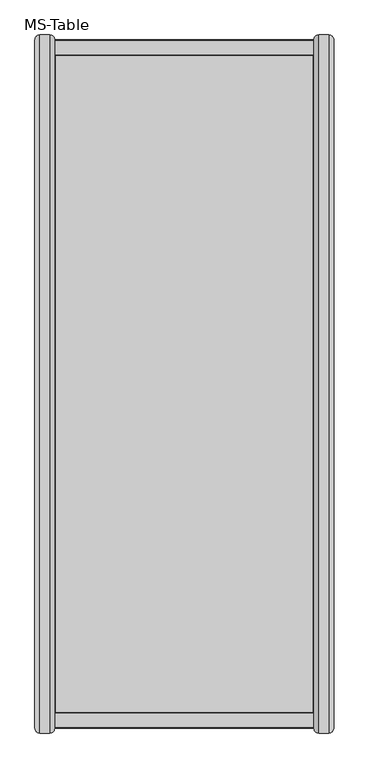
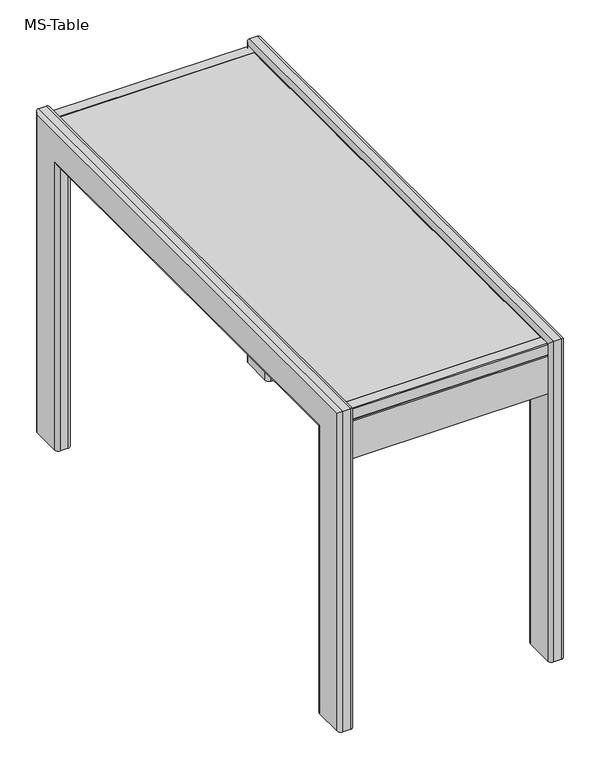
"""IFC4 building model written with IfcOpenShell, lengths in millimetres: furniture geometry, MS-Table : .Mesa controlador maior."""

from ifc_helpers import new_model, si_unit, frame, origin, place, context, project, spatial, polyline, circle_curve, ellipse_curve, outline, extrude, faceted_brep, source, transform, mapped, element, save
from ifc_brep_helpers import plane_surface, cylinder_surface, advanced_brep


def ms_table_ba98549e(model_context):
    return source(origin(), model_context, "Body", "SolidModel", [
        extrude(outline(polyline([(-260.0, -623.8884232), (-270.0, -623.8884232), (-270.0, 676.1115768), (-260.0, 676.1115768), (-260.0, -623.8884232)])), frame((0.0, 0.0, 860.0), z_axis=(0.0, 0.0, 1.0), x_axis=(1.0, 0.0, 0.0)), (0.0, 0.0, 1.0), 20.0),
        extrude(outline(polyline([(250.0, 676.1115768), (250.0, -623.8884232), (240.0, -623.8884232), (240.0, 676.1115768), (250.0, 676.1115768)])), frame((0.0, 0.0, 860.0), z_axis=(0.0, 0.0, 1.0), x_axis=(1.0, 0.0, 0.0)), (0.0, 0.0, 1.0), 20.0),
        faceted_brep([(248.0, -631.8884232, 890.0), (248.0, 684.1115768, 890.0), (-268.0, 684.1115768, 890.0), (-268.0, -631.8884232, 890.0), (250.0, 686.1115768, 880.0), (250.0, -633.8884232, 880.0), (-270.0, -633.8884232, 880.0), (-270.0, 686.1115768, 880.0), (-270.0, 686.1115768, 888.0), (250.0, 686.1115768, 888.0), (-270.0, -633.8884232, 888.0), (250.0, -633.8884232, 888.0)], [[[0, 1, 2, 3]], [[4, 5, 6, 7]], [[4, 7, 8, 9]], [[7, 6, 10, 8]], [[6, 5, 11, 10]], [[5, 4, 9, 11]], [[9, 1, 0, 11]], [[1, 9, 8, 2]], [[2, 8, 10, 3]], [[11, 0, 3, 10]]]),
        faceted_brep([(250.0, -663.8884232, 860.0), (250.0, -658.8884232, 860.0), (250.0, -658.8884232, 855.0), (250.0, -663.8884232, 855.0), (250.0, -663.8884232, 750.0), (250.0, -623.8884232, 750.0), (250.0, -623.8884232, 880.0), (250.0, -633.8884232, 880.0), (250.0, -633.8884232, 888.0), (250.0, -633.8884232, 890.0), (250.0, -661.8884232, 890.0), (250.0, -663.8884232, 888.0), (-270.0, -633.8884232, 880.0), (-270.0, -623.8884232, 880.0), (-270.0, -623.8884232, 750.0), (-270.0, -663.8884232, 750.0), (-270.0, -663.8884232, 855.0), (-270.0, -658.8884232, 855.0), (-270.0, -658.8884232, 860.0), (-270.0, -663.8884232, 860.0), (-270.0, -663.8884232, 888.0), (-270.0, -661.8884232, 890.0), (-270.0, -633.8884232, 890.0), (-270.0, -633.8884232, 888.0)], [[[0, 1, 2, 3, 4, 5, 6, 7, 8, 9, 10, 11]], [[12, 13, 14, 15, 16, 17, 18, 19, 20, 21, 22, 23]], [[19, 0, 11, 20]], [[1, 0, 19, 18]], [[2, 1, 18, 17]], [[3, 2, 17, 16]], [[4, 3, 16, 15]], [[5, 4, 15, 14]], [[6, 5, 14, 13]], [[7, 6, 13, 12]], [[7, 12, 23, 22, 9, 8]], [[9, 22, 21, 10]], [[11, 10, 21, 20]]]),
        faceted_brep([(250.0, 686.1115768, 880.0), (250.0, 676.1115768, 880.0), (250.0, 676.1115768, 750.0), (250.0, 716.1115768, 750.0), (250.0, 716.1115768, 855.0), (250.0, 711.1115768, 855.0), (250.0, 711.1115768, 860.0), (250.0, 716.1115768, 860.0), (250.0, 716.1115768, 888.0), (250.0, 714.1115768, 890.0), (250.0, 686.1115768, 890.0), (250.0, 686.1115768, 888.0), (-270.0, 716.1115768, 860.0), (-270.0, 711.1115768, 860.0), (-270.0, 711.1115768, 855.0), (-270.0, 716.1115768, 855.0), (-270.0, 716.1115768, 750.0), (-270.0, 676.1115768, 750.0), (-270.0, 676.1115768, 880.0), (-270.0, 686.1115768, 880.0), (-270.0, 686.1115768, 888.0), (-270.0, 686.1115768, 890.0), (-270.0, 714.1115768, 890.0), (-270.0, 716.1115768, 888.0)], [[[0, 1, 2, 3, 4, 5, 6, 7, 8, 9, 10, 11]], [[12, 13, 14, 15, 16, 17, 18, 19, 20, 21, 22, 23]], [[21, 10, 9, 22]], [[10, 21, 20, 19, 0, 11]], [[1, 0, 19, 18]], [[2, 1, 18, 17]], [[3, 2, 17, 16]], [[4, 3, 16, 15]], [[5, 4, 15, 14]], [[6, 5, 14, 13]], [[7, 6, 13, 12]], [[7, 12, 23, 8]], [[9, 8, 23, 22]]]),
        advanced_brep(
        [(260.0, 726.1115768, 0.0), (280.0, 726.1115768, 0.0), (290.0, 716.1115768, 0.0), (290.0, 636.1115768, 0.0), (280.0, 626.1115768, 0.0), (260.0, 626.1115768, 0.0), (250.0, 636.1115768, 0.0), (250.0, 716.1115768, 0.0), (260.0, 726.1115768, 900.0), (280.0, 726.1115768, 900.0), (290.0, 716.1115768, 890.0), (290.0, -663.8884232, 890.0), (290.0, -663.8884232, 0.0), (290.0, -583.8884232, 0.0), (290.0, -583.8884232, 810.0), (290.0, 636.1115768, 810.0), (280.0, 626.1115768, 800.0), (260.0, 626.1115768, 800.0), (250.0, 636.1115768, 810.0), (250.0, -583.8884232, 810.0), (250.0, -583.8884232, 0.0), (250.0, -663.8884232, 0.0), (250.0, -663.8884232, 888.0), (250.0, -663.8884232, 890.0), (250.0, -661.8884232, 890.0), (250.0, -633.8884232, 890.0), (250.0, 686.1115768, 890.0), (250.0, 714.1115768, 890.0), (250.0, 716.1115768, 890.0), (250.0, 716.1115768, 888.0), (260.0, -673.8884232, 900.0), (280.0, -673.8884232, 900.0), (280.0, -573.8884232, 800.0), (260.0, -573.8884232, 800.0), (280.0, -673.8884232, 0.0), (260.0, -673.8884232, 0.0), (260.0, -573.8884232, 0.0), (280.0, -573.8884232, 0.0)],
        [
            (0, 1),
            (1, 2, circle_curve(frame((280.0, 716.1115768, 0.0), z_axis=(0.0, 0.0, -1.0), x_axis=(0.0, 1.0, 0.0)), 10.0)),
            (2, 3),
            (3, 4, circle_curve(frame((280.0, 636.1115768, 0.0), z_axis=(0.0, 0.0, -1.0), x_axis=(0.0, 1.0, 0.0)), 10.0)),
            (4, 5),
            (5, 6, circle_curve(frame((260.0, 636.1115768, 0.0), z_axis=(0.0, 0.0, -1.0), x_axis=(0.0, 1.0, 0.0)), 10.0)),
            (6, 7),
            (7, 0, circle_curve(frame((260.0, 716.1115768, 0.0), z_axis=(0.0, 0.0, -1.0), x_axis=(0.0, 1.0, 0.0)), 10.0)),
            (0, 8),
            (8, 9),
            (9, 1),
            (9, 10, ellipse_curve(frame((280.0, 716.1115768, 890.0), z_axis=(0.0, 0.7071067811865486, -0.7071067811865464), x_axis=(0.0, -0.7071067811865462, -0.7071067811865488)), 14.1421356, 10.0)),
            (10, 2),
            (10, 11),
            (11, 12),
            (12, 13),
            (13, 14),
            (14, 15),
            (15, 3),
            (15, 16, ellipse_curve(frame((280.0, 636.1115768, 810.0), z_axis=(0.0, 0.7071067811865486, -0.7071067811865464), x_axis=(0.0, -0.7071067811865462, -0.7071067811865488)), 14.1421356, 10.0)),
            (16, 4),
            (16, 17),
            (17, 5),
            (17, 18, ellipse_curve(frame((260.0, 636.1115768, 810.0), z_axis=(0.0, 0.7071067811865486, -0.7071067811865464), x_axis=(0.0, -0.7071067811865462, -0.7071067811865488)), 14.1421356, 10.0)),
            (18, 6),
            (18, 19),
            (19, 20),
            (20, 21),
            (21, 22),
            (22, 23),
            (23, 24),
            (24, 25),
            (25, 26),
            (26, 27),
            (27, 28),
            (28, 29),
            (29, 7),
            (28, 8, ellipse_curve(frame((260.0, 716.1115768, 890.0), z_axis=(0.0, 0.7071067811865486, -0.7071067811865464), x_axis=(0.0, -0.7071067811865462, -0.7071067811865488)), 14.1421356, 10.0)),
            (8, 30),
            (30, 31),
            (31, 9),
            (31, 11, ellipse_curve(frame((280.0, -663.8884232, 890.0), z_axis=(0.0, 0.7071067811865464, 0.7071067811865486), x_axis=(0.0, 0.7071067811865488, -0.7071067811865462)), 14.1421356, 10.0)),
            (14, 32, ellipse_curve(frame((280.0, -583.8884232, 810.0), z_axis=(0.0, 0.7071067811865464, 0.7071067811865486), x_axis=(0.0, 0.7071067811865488, -0.7071067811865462)), 14.1421356, 10.0)),
            (32, 16),
            (32, 33),
            (33, 17),
            (33, 19, ellipse_curve(frame((260.0, -583.8884232, 810.0), z_axis=(0.0, 0.7071067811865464, 0.7071067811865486), x_axis=(0.0, 0.7071067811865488, -0.7071067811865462)), 14.1421356, 10.0)),
            (23, 30, ellipse_curve(frame((260.0, -663.8884232, 890.0), z_axis=(0.0, 0.7071067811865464, 0.7071067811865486), x_axis=(0.0, 0.7071067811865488, -0.7071067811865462)), 14.1421356, 10.0)),
            (12, 34, circle_curve(frame((280.0, -663.8884232, 0.0), z_axis=(0.0, 0.0, -1.0), x_axis=(0.0, -1.0, 0.0)), 10.0)),
            (34, 35),
            (35, 21, circle_curve(frame((260.0, -663.8884232, 0.0), z_axis=(0.0, 0.0, -1.0), x_axis=(0.0, -1.0, 0.0)), 10.0)),
            (20, 36, circle_curve(frame((260.0, -583.8884232, 0.0), z_axis=(0.0, 0.0, -1.0), x_axis=(0.0, -1.0, 0.0)), 10.0)),
            (36, 37),
            (37, 13, circle_curve(frame((280.0, -583.8884232, 0.0), z_axis=(0.0, 0.0, -1.0), x_axis=(0.0, -1.0, 0.0)), 10.0)),
            (30, 35),
            (34, 31),
            (37, 32),
            (36, 33),
        ],
        [
            plane_surface(frame((290.0, 726.1115768, 0.0), z_axis=(0.0, 0.0, -1.0), x_axis=(1.0, 0.0, 0.0))),
            plane_surface(frame((260.0, 726.1115768, 0.0), z_axis=(0.0, 1.0, 0.0), x_axis=(0.0, 0.0, 1.0))),
            cylinder_surface(frame((280.0, 716.1115768, 0.0), z_axis=(0.0, 0.0, -1.0), x_axis=(0.0, 1.0, 0.0)), 10.0),
            plane_surface(frame((290.0, 716.1115768, 0.0), z_axis=(1.0, 0.0, 0.0), x_axis=(0.0, 0.0, 1.0))),
            cylinder_surface(frame((280.0, 636.1115768, 0.0), z_axis=(0.0, 0.0, -1.0), x_axis=(0.0, 1.0, 0.0)), 10.0),
            plane_surface(frame((280.0, 626.1115768, 0.0), z_axis=(0.0, -1.0, 0.0), x_axis=(0.0, 0.0, 1.0))),
            cylinder_surface(frame((260.0, 636.1115768, 0.0), z_axis=(0.0, 0.0, -1.0), x_axis=(0.0, 1.0, 0.0)), 10.0),
            plane_surface(frame((250.0, 636.1115768, 0.0), z_axis=(-1.0, 0.0, 0.0), x_axis=(0.0, 0.0, 1.0))),
            cylinder_surface(frame((260.0, 716.1115768, 0.0), z_axis=(0.0, 0.0, -1.0), x_axis=(0.0, 1.0, 0.0)), 10.0),
            plane_surface(frame((260.0, 726.1115768, 900.0), z_axis=(0.0, 0.0, 1.0), x_axis=(0.0, -1.0, 0.0))),
            cylinder_surface(frame((280.0, 726.1115768, 890.0), z_axis=(0.0, 1.0, 0.0), x_axis=(0.0, 0.0, 1.0)), 10.0),
            cylinder_surface(frame((280.0, 726.1115768, 810.0), z_axis=(0.0, 1.0, 0.0), x_axis=(0.0, 0.0, 1.0)), 10.0),
            plane_surface(frame((280.0, 626.1115768, 800.0), z_axis=(0.0, 0.0, -1.0), x_axis=(0.0, -1.0, 0.0))),
            cylinder_surface(frame((260.0, 726.1115768, 810.0), z_axis=(0.0, 1.0, 0.0), x_axis=(0.0, 0.0, 1.0)), 10.0),
            cylinder_surface(frame((260.0, 726.1115768, 890.0), z_axis=(0.0, 1.0, 0.0), x_axis=(0.0, 0.0, 1.0)), 10.0),
            plane_surface(frame((290.0, -673.8884232, 0.0), z_axis=(0.0, 0.0, -1.0), x_axis=(1.0, 0.0, 0.0))),
            plane_surface(frame((260.0, -673.8884232, 900.0), z_axis=(0.0, -1.0, 0.0), x_axis=(0.0, 0.0, -1.0))),
            cylinder_surface(frame((280.0, -663.8884232, 900.0), z_axis=(0.0, 0.0, 1.0), x_axis=(0.0, -1.0, 0.0)), 10.0),
            cylinder_surface(frame((280.0, -583.8884232, 900.0), z_axis=(0.0, 0.0, 1.0), x_axis=(0.0, -1.0, 0.0)), 10.0),
            plane_surface(frame((280.0, -573.8884232, 800.0), z_axis=(0.0, 1.0, 0.0), x_axis=(0.0, 0.0, -1.0))),
            cylinder_surface(frame((260.0, -583.8884232, 900.0), z_axis=(0.0, 0.0, 1.0), x_axis=(0.0, -1.0, 0.0)), 10.0),
            cylinder_surface(frame((260.0, -663.8884232, 900.0), z_axis=(0.0, 0.0, 1.0), x_axis=(0.0, -1.0, 0.0)), 10.0),
        ],
        [
            (0, [[1, 2, 3, 4, 5, 6, 7, 8]]),
            (1, [[-1, 9, 10, 11]]),
            (2, [[-2, -11, 12, 13]]),
            (3, [[-3, -13, 14, 15, 16, 17, 18, 19]]),
            (4, [[-4, -19, 20, 21]]),
            (5, [[-5, -21, 22, 23]]),
            (6, [[-6, -23, 24, 25]]),
            (7, [[-7, -25, 26, 27, 28, 29, 30, 31, 32, 33, 34, 35, 36, 37]]),
            (8, [[-8, -37, -36, 38, -9]]),
            (9, [[-10, 39, 40, 41]]),
            (10, [[-12, -41, 42, -14]]),
            (11, [[-18, 43, 44, -20]]),
            (12, [[-22, -44, 45, 46]]),
            (13, [[-24, -46, 47, -26]]),
            (14, [[-38, -35, -34, -33, -32, -31, 48, -39]]),
            (15, [[-16, 49, 50, 51, -28, 52, 53, 54]]),
            (16, [[-40, 55, -50, 56]]),
            (17, [[-15, -42, -56, -49]]),
            (18, [[-17, -54, 57, -43]]),
            (19, [[-45, -57, -53, 58]]),
            (20, [[-27, -47, -58, -52]]),
            (21, [[-48, -30, -29, -51, -55]]),
        ],
    ),
        advanced_brep(
        [(-280.0, -673.8884232, 0.0), (-300.0, -673.8884232, 0.0), (-310.0, -663.8884232, 0.0), (-310.0, -583.8884232, 0.0), (-300.0, -573.8884232, 0.0), (-280.0, -573.8884232, 0.0), (-270.0, -583.8884232, 0.0), (-270.0, -663.8884232, 0.0), (-280.0, -673.8884232, 900.0), (-300.0, -673.8884232, 900.0), (-310.0, -663.8884232, 890.0), (-310.0, 716.1115768, 890.0), (-310.0, 716.1115768, 0.0), (-310.0, 636.1115768, 0.0), (-310.0, 636.1115768, 810.0), (-310.0, -583.8884232, 810.0), (-300.0, -573.8884232, 800.0), (-280.0, -573.8884232, 800.0), (-270.0, -583.8884232, 810.0), (-270.0, 636.1115768, 810.0), (-270.0, 636.1115768, 0.0), (-270.0, 716.1115768, 0.0), (-270.0, 716.1115768, 888.0), (-270.0, 716.1115768, 890.0), (-270.0, 714.1115768, 890.0), (-270.0, 686.1115768, 890.0), (-270.0, -633.8884232, 890.0), (-270.0, -661.8884232, 890.0), (-270.0, -663.8884232, 890.0), (-270.0, -663.8884232, 888.0), (-280.0, 726.1115768, 900.0), (-300.0, 726.1115768, 900.0), (-300.0, 626.1115768, 800.0), (-280.0, 626.1115768, 800.0), (-300.0, 726.1115768, 0.0), (-280.0, 726.1115768, 0.0), (-280.0, 626.1115768, 0.0), (-300.0, 626.1115768, 0.0)],
        [
            (0, 1),
            (1, 2, circle_curve(frame((-300.0, -663.8884232, 0.0), z_axis=(0.0, 0.0, -1.0), x_axis=(0.0, -1.0, 0.0)), 10.0)),
            (2, 3),
            (3, 4, circle_curve(frame((-300.0, -583.8884232, 0.0), z_axis=(0.0, 0.0, -1.0), x_axis=(0.0, -1.0, 0.0)), 10.0)),
            (4, 5),
            (5, 6, circle_curve(frame((-280.0, -583.8884232, 0.0), z_axis=(0.0, 0.0, -1.0), x_axis=(0.0, -1.0, 0.0)), 10.0)),
            (6, 7),
            (7, 0, circle_curve(frame((-280.0, -663.8884232, 0.0), z_axis=(0.0, 0.0, -1.0), x_axis=(0.0, -1.0, 0.0)), 10.0)),
            (0, 8),
            (8, 9),
            (9, 1),
            (9, 10, ellipse_curve(frame((-300.0, -663.8884232, 890.0), z_axis=(0.0, -0.7071067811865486, -0.7071067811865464), x_axis=(0.0, 0.7071067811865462, -0.7071067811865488)), 14.1421356, 10.0)),
            (10, 2),
            (10, 11),
            (11, 12),
            (12, 13),
            (13, 14),
            (14, 15),
            (15, 3),
            (15, 16, ellipse_curve(frame((-300.0, -583.8884232, 810.0), z_axis=(0.0, -0.7071067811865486, -0.7071067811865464), x_axis=(0.0, 0.7071067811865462, -0.7071067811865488)), 14.1421356, 10.0)),
            (16, 4),
            (16, 17),
            (17, 5),
            (17, 18, ellipse_curve(frame((-280.0, -583.8884232, 810.0), z_axis=(0.0, -0.7071067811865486, -0.7071067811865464), x_axis=(0.0, 0.7071067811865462, -0.7071067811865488)), 14.1421356, 10.0)),
            (18, 6),
            (18, 19),
            (19, 20),
            (20, 21),
            (21, 22),
            (22, 23),
            (23, 24),
            (24, 25),
            (25, 26),
            (26, 27),
            (27, 28),
            (28, 29),
            (29, 7),
            (28, 8, ellipse_curve(frame((-280.0, -663.8884232, 890.0), z_axis=(0.0, -0.7071067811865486, -0.7071067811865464), x_axis=(0.0, 0.7071067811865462, -0.7071067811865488)), 14.1421356, 10.0)),
            (8, 30),
            (30, 31),
            (31, 9),
            (31, 11, ellipse_curve(frame((-300.0, 716.1115768, 890.0), z_axis=(0.0, -0.7071067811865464, 0.7071067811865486), x_axis=(0.0, -0.7071067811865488, -0.7071067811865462)), 14.1421356, 10.0)),
            (14, 32, ellipse_curve(frame((-300.0, 636.1115768, 810.0), z_axis=(0.0, -0.7071067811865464, 0.7071067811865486), x_axis=(0.0, -0.7071067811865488, -0.7071067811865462)), 14.1421356, 10.0)),
            (32, 16),
            (32, 33),
            (33, 17),
            (33, 19, ellipse_curve(frame((-280.0, 636.1115768, 810.0), z_axis=(0.0, -0.7071067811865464, 0.7071067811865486), x_axis=(0.0, -0.7071067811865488, -0.7071067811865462)), 14.1421356, 10.0)),
            (23, 30, ellipse_curve(frame((-280.0, 716.1115768, 890.0), z_axis=(0.0, -0.7071067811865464, 0.7071067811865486), x_axis=(0.0, -0.7071067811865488, -0.7071067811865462)), 14.1421356, 10.0)),
            (12, 34, circle_curve(frame((-300.0, 716.1115768, 0.0), z_axis=(0.0, 0.0, -1.0), x_axis=(0.0, 1.0, 0.0)), 10.0)),
            (34, 35),
            (35, 21, circle_curve(frame((-280.0, 716.1115768, 0.0), z_axis=(0.0, 0.0, -1.0), x_axis=(0.0, 1.0, 0.0)), 10.0)),
            (20, 36, circle_curve(frame((-280.0, 636.1115768, 0.0), z_axis=(0.0, 0.0, -1.0), x_axis=(0.0, 1.0, 0.0)), 10.0)),
            (36, 37),
            (37, 13, circle_curve(frame((-300.0, 636.1115768, 0.0), z_axis=(0.0, 0.0, -1.0), x_axis=(0.0, 1.0, 0.0)), 10.0)),
            (30, 35),
            (34, 31),
            (37, 32),
            (36, 33),
        ],
        [
            plane_surface(frame((-310.0, -673.8884232, 0.0), z_axis=(0.0, 0.0, -1.0), x_axis=(1.0, 0.0, 0.0))),
            plane_surface(frame((-280.0, -673.8884232, 0.0), z_axis=(0.0, -1.0, 0.0), x_axis=(0.0, 0.0, 1.0))),
            cylinder_surface(frame((-300.0, -663.8884232, 0.0), z_axis=(0.0, 0.0, -1.0), x_axis=(0.0, -1.0, 0.0)), 10.0),
            plane_surface(frame((-310.0, -663.8884232, 0.0), z_axis=(-1.0, 0.0, 0.0), x_axis=(0.0, 0.0, 1.0))),
            cylinder_surface(frame((-300.0, -583.8884232, 0.0), z_axis=(0.0, 0.0, -1.0), x_axis=(0.0, -1.0, 0.0)), 10.0),
            plane_surface(frame((-300.0, -573.8884232, 0.0), z_axis=(0.0, 1.0, 0.0), x_axis=(0.0, 0.0, 1.0))),
            cylinder_surface(frame((-280.0, -583.8884232, 0.0), z_axis=(0.0, 0.0, -1.0), x_axis=(0.0, -1.0, 0.0)), 10.0),
            plane_surface(frame((-270.0, -583.8884232, 0.0), z_axis=(1.0, 0.0, 0.0), x_axis=(0.0, 0.0, 1.0))),
            cylinder_surface(frame((-280.0, -663.8884232, 0.0), z_axis=(0.0, 0.0, -1.0), x_axis=(0.0, -1.0, 0.0)), 10.0),
            plane_surface(frame((-280.0, -673.8884232, 900.0), z_axis=(0.0, 0.0, 1.0), x_axis=(0.0, 1.0, 0.0))),
            cylinder_surface(frame((-300.0, -673.8884232, 890.0), z_axis=(0.0, -1.0, 0.0), x_axis=(0.0, 0.0, 1.0)), 10.0),
            cylinder_surface(frame((-300.0, -673.8884232, 810.0), z_axis=(0.0, -1.0, 0.0), x_axis=(0.0, 0.0, 1.0)), 10.0),
            plane_surface(frame((-300.0, -573.8884232, 800.0), z_axis=(0.0, 0.0, -1.0), x_axis=(0.0, 1.0, 0.0))),
            cylinder_surface(frame((-280.0, -673.8884232, 810.0), z_axis=(0.0, -1.0, 0.0), x_axis=(0.0, 0.0, 1.0)), 10.0),
            cylinder_surface(frame((-280.0, -673.8884232, 890.0), z_axis=(0.0, -1.0, 0.0), x_axis=(0.0, 0.0, 1.0)), 10.0),
            plane_surface(frame((-310.0, 726.1115768, 0.0), z_axis=(0.0, 0.0, -1.0), x_axis=(1.0, 0.0, 0.0))),
            plane_surface(frame((-280.0, 726.1115768, 900.0), z_axis=(0.0, 1.0, 0.0), x_axis=(0.0, 0.0, -1.0))),
            cylinder_surface(frame((-300.0, 716.1115768, 900.0), z_axis=(0.0, 0.0, 1.0), x_axis=(0.0, 1.0, 0.0)), 10.0),
            cylinder_surface(frame((-300.0, 636.1115768, 900.0), z_axis=(0.0, 0.0, 1.0), x_axis=(0.0, 1.0, 0.0)), 10.0),
            plane_surface(frame((-300.0, 626.1115768, 800.0), z_axis=(0.0, -1.0, 0.0), x_axis=(0.0, 0.0, -1.0))),
            cylinder_surface(frame((-280.0, 636.1115768, 900.0), z_axis=(0.0, 0.0, 1.0), x_axis=(0.0, 1.0, 0.0)), 10.0),
            cylinder_surface(frame((-280.0, 716.1115768, 900.0), z_axis=(0.0, 0.0, 1.0), x_axis=(0.0, 1.0, 0.0)), 10.0),
        ],
        [
            (0, [[1, 2, 3, 4, 5, 6, 7, 8]]),
            (1, [[-1, 9, 10, 11]]),
            (2, [[-2, -11, 12, 13]]),
            (3, [[-3, -13, 14, 15, 16, 17, 18, 19]]),
            (4, [[-4, -19, 20, 21]]),
            (5, [[-5, -21, 22, 23]]),
            (6, [[-6, -23, 24, 25]]),
            (7, [[-7, -25, 26, 27, 28, 29, 30, 31, 32, 33, 34, 35, 36, 37]]),
            (8, [[-8, -37, -36, 38, -9]]),
            (9, [[-10, 39, 40, 41]]),
            (10, [[-12, -41, 42, -14]]),
            (11, [[-18, 43, 44, -20]]),
            (12, [[-22, -44, 45, 46]]),
            (13, [[-24, -46, 47, -26]]),
            (14, [[-38, -35, -34, -33, -32, -31, 48, -39]]),
            (15, [[-16, 49, 50, 51, -28, 52, 53, 54]]),
            (16, [[-40, 55, -50, 56]]),
            (17, [[-15, -42, -56, -49]]),
            (18, [[-17, -54, 57, -43]]),
            (19, [[-45, -57, -53, 58]]),
            (20, [[-27, -47, -58, -52]]),
            (21, [[-48, -30, -29, -51, -55]]),
        ],
    ),
    ])


if __name__ == "__main__":
    model = new_model("IFC4")
    model_context = context("Model", 3, world=origin())
    ifc_project = project(units=[si_unit("LENGTHUNIT", "METRE", prefix="MILLI")], contexts=[model_context])
    site = spatial("IfcSite", under=ifc_project)
    building = spatial("IfcBuilding", under=site)
    placement = place(None, origin())
    ms_table_shape = ms_table_ba98549e(model_context)
    element("IfcFurniture", 1, ObjectType="MS-Table : .Mesa controlador maior", at=placement, inside=building, context=model_context, shape_type="MappedRepresentation", body=[
        mapped(ms_table_shape, transform((0.0, 0.0, 0.0), x_axis=(1.0, 0.0, 0.0), y_axis=(0.0, 1.0, 0.0), z_axis=(0.0, 0.0, 1.0))),
    ])
    save(model, "model.ifc")
